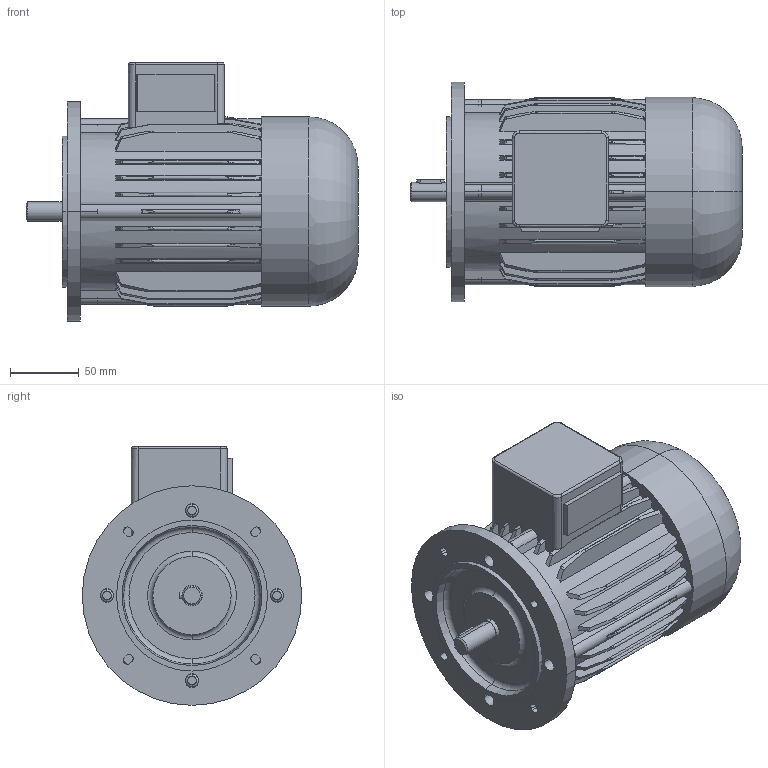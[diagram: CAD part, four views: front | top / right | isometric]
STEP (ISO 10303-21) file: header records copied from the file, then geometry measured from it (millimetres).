
FILE_DESCRIPTION(('OneSpaceDesigner STEP Export'),'2;1');
FILE_NAME('OD7_B5_FF130.stp','2008-04-24T11:34:31',(''),(''),'OneSpace Designer STEP processor (Jan. 2003) for AP214(CD)(Solid Model)','OneSpace Designer 12.01D 09-Jul-2004 (C) CoCreate Software GmbH','');
FILE_SCHEMA(('AUTOMOTIVE_DESIGN_CC2 {1 2 10303 214 -1 1 5 1}'));
Length unit declared in the file: millimetre
Products named in the file (2): OD7_B5_FF130
Assembly tree (1 placements, depth 2):
  OD7_B5_FF130
    OD7_B5_FF130
Bounding box: 242 x 160 x 188.5 mm (x, y, z)
Volume: 2885848.3 mm3; surface area: 197955 mm2
Topology: 1 solids, 1 shells, 400 faces, 1158 edges, 779 vertices
Faces by surface type: plane 120, cylinder 108, cone 100, torus 62, extrusion 6, bspline 4
Entity records: 31147 total; most frequent: CARTESIAN_POINT 22251, ORIENTED_EDGE 2316, DIRECTION 1282, EDGE_CURVE 1158, VERTEX_POINT 779, AXIS2_PLACEMENT_3D 454, EDGE_LOOP 427, B_SPLINE_CURVE_WITH_KNOTS 407
